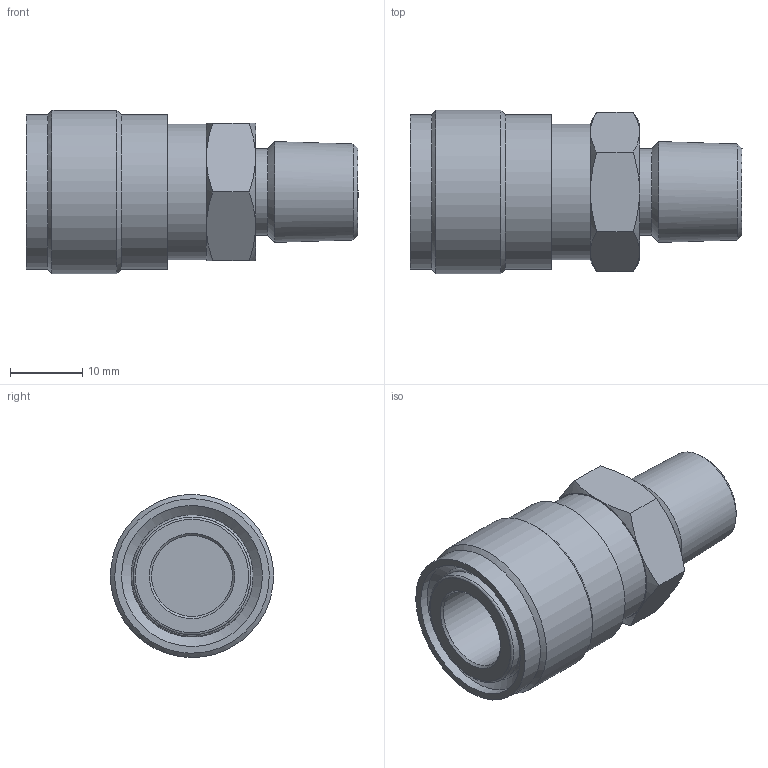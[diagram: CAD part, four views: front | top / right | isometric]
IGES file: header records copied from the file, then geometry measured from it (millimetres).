
Global section: file name: SFQC2B-M4N; native system: Autodesk Inventor 2016; preprocessor: unknown; author: 이승민,,11,0; organization: 20170208.021357; date: 20170208.202911; units: millimetre
Bounding box: 46 x 22.6 x 22.6 mm (x, y, z)
Volume: 11162.8 mm3; surface area: 4726.2 mm2
Topology: 1 solids, 1 shells, 51 faces, 130 edges, 89 vertices
Faces by surface type: bspline 51
